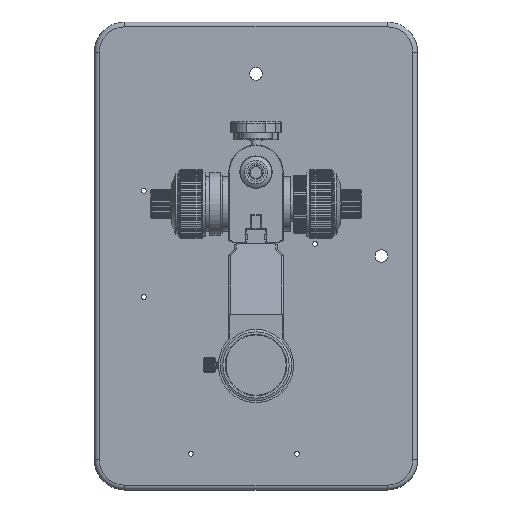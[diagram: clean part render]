
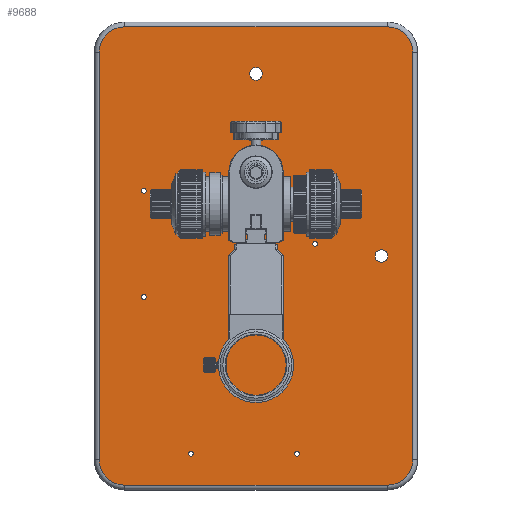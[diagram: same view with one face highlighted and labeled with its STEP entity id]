
A CAD part, top view. The second image highlights one B-rep face of the part: STEP entity #9688.
In plain terms, the highlighted planar face has unit normal (0, 0, 1).
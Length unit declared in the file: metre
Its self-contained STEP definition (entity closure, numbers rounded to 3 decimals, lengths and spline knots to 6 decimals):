
#9688=ADVANCED_FACE('0:79523',(#28701,#28702,#28703,#28704,#28705,#28706,#28707,#28708,#28709,#28710),#28711,.T.);
#10722=EDGE_CURVE('0:80837',#30304,#30304,#30305,.T.);
#10852=EDGE_CURVE('0:80852',#30485,#30485,#30486,.T.);
#10878=EDGE_CURVE('0:80891',#30513,#30520,#30523,.T.);
#10890=EDGE_CURVE('0:80870',#30520,#30538,#30539,.T.);
#10892=EDGE_CURVE('0:80873',#30538,#30541,#30542,.T.);
#10894=EDGE_CURVE('0:80876',#30541,#30544,#30545,.T.);
#10896=EDGE_CURVE('0:80879',#30544,#30547,#30548,.T.);
#10898=EDGE_CURVE('0:80882',#30547,#30550,#30551,.T.);
#10900=EDGE_CURVE('0:80885',#30550,#30553,#30554,.T.);
#10902=EDGE_CURVE('0:80888',#30553,#30513,#30556,.T.);
#10904=EDGE_CURVE('0:80840',#30558,#30558,#30559,.T.);
#10906=EDGE_CURVE('0:80843',#30561,#30561,#30562,.T.);
#10908=EDGE_CURVE('0:80846',#30564,#30564,#30565,.T.);
#10910=EDGE_CURVE('0:80849',#30567,#30567,#30568,.T.);
#10912=EDGE_CURVE('0:80861',#30570,#30570,#30571,.T.);
#10914=EDGE_CURVE('0:80867',#30573,#30573,#30574,.T.);
#10916=EDGE_CURVE('0:80858',#30576,#30576,#30577,.T.);
#28701=FACE_OUTER_BOUND('',#55036,.T.);
#28702=FACE_BOUND('',#55037,.T.);
#28703=FACE_BOUND('',#55038,.T.);
#28704=FACE_BOUND('',#55039,.T.);
#28705=FACE_BOUND('',#55040,.T.);
#28706=FACE_BOUND('',#55041,.T.);
#28707=FACE_BOUND('',#55042,.T.);
#28708=FACE_BOUND('',#55043,.T.);
#28709=FACE_BOUND('',#55044,.T.);
#28710=FACE_BOUND('',#55045,.T.);
#28711=PLANE('',#55046);
#30304=VERTEX_POINT('',#57148);
#30305=CIRCLE('',#57149,0.002);
#30485=VERTEX_POINT('',#57442);
#30486=CIRCLE('',#57443,0.002);
#30513=VERTEX_POINT('',#57487);
#30520=VERTEX_POINT('',#57496);
#30523=CIRCLE('',#57500,0.021);
#30538=VERTEX_POINT('',#57526);
#30539=LINE('',#57527,#57528);
#30541=VERTEX_POINT('',#57531);
#30542=CIRCLE('',#57532,0.021);
#30544=VERTEX_POINT('',#57535);
#30545=LINE('',#57536,#57537);
#30547=VERTEX_POINT('',#57540);
#30548=CIRCLE('',#57541,0.021);
#30550=VERTEX_POINT('',#57544);
#30551=LINE('',#57545,#57546);
#30553=VERTEX_POINT('',#57549);
#30554=CIRCLE('',#57550,0.021);
#30556=LINE('',#57553,#57554);
#30558=VERTEX_POINT('',#57557);
#30559=CIRCLE('',#57558,0.002);
#30561=VERTEX_POINT('',#57561);
#30562=CIRCLE('',#57562,0.002);
#30564=VERTEX_POINT('',#57565);
#30565=CIRCLE('',#57566,0.002);
#30567=VERTEX_POINT('',#57569);
#30568=CIRCLE('',#57570,0.002);
#30570=VERTEX_POINT('',#57573);
#30571=CIRCLE('',#57574,0.00525);
#30573=VERTEX_POINT('',#57577);
#30574=CIRCLE('',#57578,0.00525);
#30576=VERTEX_POINT('',#57581);
#30577=CIRCLE('',#57582,0.00525);
#55036=EDGE_LOOP('',(#132836,#132837,#132838,#132839,#132840,#132841,#132842,#132843));
#55037=EDGE_LOOP('',(#132844));
#55038=EDGE_LOOP('',(#132845));
#55039=EDGE_LOOP('',(#132846));
#55040=EDGE_LOOP('',(#132847));
#55041=EDGE_LOOP('',(#132848));
#55042=EDGE_LOOP('',(#132849));
#55043=EDGE_LOOP('',(#132850));
#55044=EDGE_LOOP('',(#132851));
#55045=EDGE_LOOP('',(#132852));
#55046=AXIS2_PLACEMENT_3D('',#132853,#132854,#132855);
#57148=CARTESIAN_POINT('',(-0.054,-0.166,0.026));
#57149=AXIS2_PLACEMENT_3D('',#135400,#135401,#135402);
#57442=CARTESIAN_POINT('',(0.049,0.008,0.026));
#57443=AXIS2_PLACEMENT_3D('',#135499,#135500,#135501);
#57487=CARTESIAN_POINT('',(0.13,0.169,0.026));
#57496=CARTESIAN_POINT('',(0.109,0.19,0.026));
#57500=AXIS2_PLACEMENT_3D('',#135524,#135525,#135526);
#57526=CARTESIAN_POINT('',(-0.109,0.19,0.026));
#57527=CARTESIAN_POINT('',(0.,0.19,0.026));
#57528=VECTOR('',#135532,1.0);
#57531=CARTESIAN_POINT('',(-0.13,0.169,0.026));
#57532=AXIS2_PLACEMENT_3D('',#135533,#135534,#135535);
#57535=CARTESIAN_POINT('',(-0.13,-0.169,0.026));
#57536=CARTESIAN_POINT('',(-0.13,0.,0.026));
#57537=VECTOR('',#135536,1.0);
#57540=CARTESIAN_POINT('',(-0.109,-0.19,0.026));
#57541=AXIS2_PLACEMENT_3D('',#135537,#135538,#135539);
#57544=CARTESIAN_POINT('',(0.109,-0.19,0.026));
#57545=CARTESIAN_POINT('',(0.,-0.19,0.026));
#57546=VECTOR('',#135540,1.0);
#57549=CARTESIAN_POINT('',(0.13,-0.169,0.026));
#57550=AXIS2_PLACEMENT_3D('',#135541,#135542,#135543);
#57553=CARTESIAN_POINT('',(0.13,0.,0.026));
#57554=VECTOR('',#135544,1.0);
#57557=CARTESIAN_POINT('',(0.034,-0.166,0.026));
#57558=AXIS2_PLACEMENT_3D('',#135545,#135546,#135547);
#57561=CARTESIAN_POINT('',(-0.01,-0.024,0.026));
#57562=AXIS2_PLACEMENT_3D('',#135548,#135549,#135550);
#57565=CARTESIAN_POINT('',(-0.093,-0.036,0.026));
#57566=AXIS2_PLACEMENT_3D('',#135551,#135552,#135553);
#57569=CARTESIAN_POINT('',(-0.093,0.052,0.026));
#57570=AXIS2_PLACEMENT_3D('',#135554,#135555,#135556);
#57573=CARTESIAN_POINT('',(0.,0.06375,0.026));
#57574=AXIS2_PLACEMENT_3D('',#135557,#135558,#135559);
#57577=CARTESIAN_POINT('',(0.,0.14575,0.026));
#57578=AXIS2_PLACEMENT_3D('',#135560,#135561,#135562);
#57581=CARTESIAN_POINT('',(0.104,-0.00525,0.026));
#57582=AXIS2_PLACEMENT_3D('',#135563,#135564,#135565);
#132836=ORIENTED_EDGE('',*,*,#10890,.T.);
#132837=ORIENTED_EDGE('',*,*,#10892,.T.);
#132838=ORIENTED_EDGE('',*,*,#10894,.T.);
#132839=ORIENTED_EDGE('',*,*,#10896,.T.);
#132840=ORIENTED_EDGE('',*,*,#10898,.T.);
#132841=ORIENTED_EDGE('',*,*,#10900,.T.);
#132842=ORIENTED_EDGE('',*,*,#10902,.T.);
#132843=ORIENTED_EDGE('',*,*,#10878,.T.);
#132844=ORIENTED_EDGE('',*,*,#10722,.F.);
#132845=ORIENTED_EDGE('',*,*,#10904,.F.);
#132846=ORIENTED_EDGE('',*,*,#10906,.F.);
#132847=ORIENTED_EDGE('',*,*,#10908,.F.);
#132848=ORIENTED_EDGE('',*,*,#10910,.F.);
#132849=ORIENTED_EDGE('',*,*,#10852,.F.);
#132850=ORIENTED_EDGE('',*,*,#10912,.F.);
#132851=ORIENTED_EDGE('',*,*,#10914,.F.);
#132852=ORIENTED_EDGE('',*,*,#10916,.F.);
#132853=CARTESIAN_POINT('',(0.0,0.0,0.026));
#132854=DIRECTION('',(0.0,0.0,1.0));
#132855=DIRECTION('',(1.0,0.0,0.0));
#135400=CARTESIAN_POINT('',(-0.054,-0.164,0.026));
#135401=DIRECTION('',(0.0,0.0,1.0));
#135402=DIRECTION('',(0.,-1.0,0.0));
#135499=CARTESIAN_POINT('',(0.049,0.01,0.026));
#135500=DIRECTION('',(0.0,0.0,1.0));
#135501=DIRECTION('',(0.,-1.0,0.0));
#135524=CARTESIAN_POINT('',(0.109,0.169,0.026));
#135525=DIRECTION('',(0.0,0.0,1.0));
#135526=DIRECTION('',(0.,-1.0,0.0));
#135532=DIRECTION('',(-1.0,0.,0.0));
#135533=CARTESIAN_POINT('',(-0.109,0.169,0.026));
#135534=DIRECTION('',(0.0,0.0,1.0));
#135535=DIRECTION('',(0.,-1.0,0.0));
#135536=DIRECTION('',(0.,-1.0,0.0));
#135537=CARTESIAN_POINT('',(-0.109,-0.169,0.026));
#135538=DIRECTION('',(0.0,0.0,1.0));
#135539=DIRECTION('',(0.,-1.0,0.0));
#135540=DIRECTION('',(1.0,0.,0.0));
#135541=CARTESIAN_POINT('',(0.109,-0.169,0.026));
#135542=DIRECTION('',(0.0,0.0,1.0));
#135543=DIRECTION('',(0.,-1.0,0.0));
#135544=DIRECTION('',(0.,1.0,0.0));
#135545=CARTESIAN_POINT('',(0.034,-0.164,0.026));
#135546=DIRECTION('',(0.0,0.0,1.0));
#135547=DIRECTION('',(0.,-1.0,0.0));
#135548=CARTESIAN_POINT('',(-0.01,-0.022,0.026));
#135549=DIRECTION('',(0.0,0.0,1.0));
#135550=DIRECTION('',(0.,-1.0,0.0));
#135551=CARTESIAN_POINT('',(-0.093,-0.034,0.026));
#135552=DIRECTION('',(0.0,0.0,1.0));
#135553=DIRECTION('',(0.,-1.0,0.0));
#135554=CARTESIAN_POINT('',(-0.093,0.054,0.026));
#135555=DIRECTION('',(0.0,0.0,1.0));
#135556=DIRECTION('',(0.,-1.0,0.0));
#135557=CARTESIAN_POINT('',(0.,0.069,0.026));
#135558=DIRECTION('',(0.0,0.0,1.0));
#135559=DIRECTION('',(0.,-1.0,0.0));
#135560=CARTESIAN_POINT('',(0.,0.151,0.026));
#135561=DIRECTION('',(0.0,0.0,1.0));
#135562=DIRECTION('',(0.,-1.0,0.0));
#135563=CARTESIAN_POINT('',(0.104,0.,0.026));
#135564=DIRECTION('',(0.0,0.0,1.0));
#135565=DIRECTION('',(0.,-1.0,0.0));
